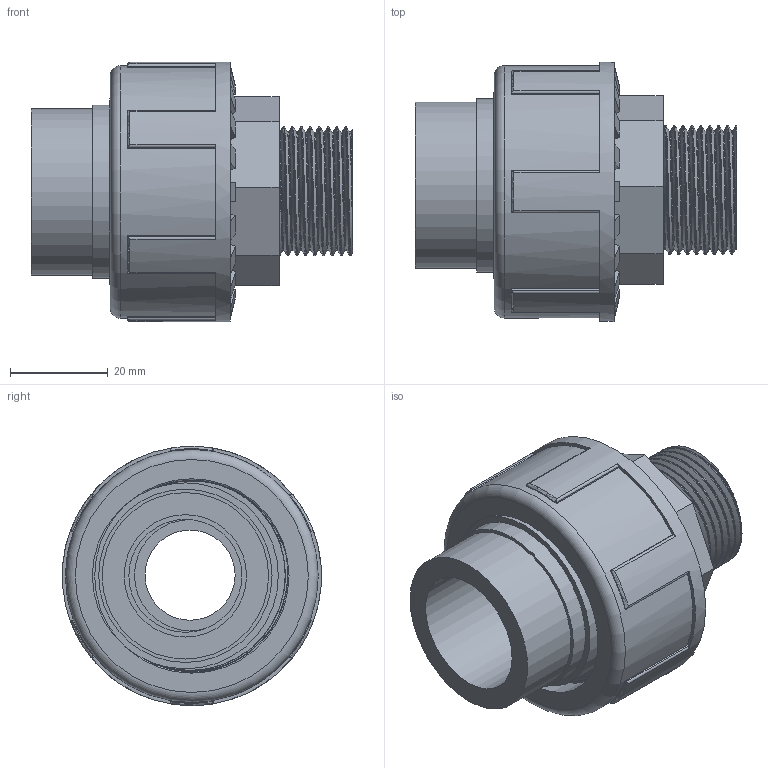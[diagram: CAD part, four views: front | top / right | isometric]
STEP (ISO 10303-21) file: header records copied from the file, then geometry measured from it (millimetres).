
FILE_DESCRIPTION(/* description */ (''),/* implementation_level */ '2;1');
FILE_NAME(/* name */ 'C:\ex desktop\US82\US82025C\US82025C.stp',/* time_stamp */ '2019-07-16T12:34:03+02:00',/* author */ ('e.sacchi'),/* organization */ (''),/* preprocessor_version */ 'ST-DEVELOPER v16.13',/* originating_system */ 'Autodesk Inventor 2018',/* authorisation */ '');
FILE_SCHEMA (('AUTOMOTIVE_DESIGN { 1 0 10303 214 3 1 1 }'));
Length unit declared in the file: millimetre
Products named in the file (5): US82025C; parte interna; guarnizione; parte interna2; ghiera
Assembly tree (4 placements, depth 2):
  US82025C
    parte interna
    guarnizione
    parte interna2
    ghiera
Bounding box: 65.6 x 52.93 x 52.99 mm (x, y, z)
Volume: 59170 mm3; surface area: 42280.8 mm2
Topology: 7 solids, 7 shells, 192 faces, 451 edges, 300 vertices
Faces by surface type: plane 133, cylinder 33, bspline 18, torus 8
Full cylindrical faces by diameter (mm): 18.41 x1, 22.71 x1, 23.094 x1, 24.072 x2, 25 x1, 25.81 x1, 33.7 x1, 34 x1, 35.409 x1, 38 x1, 38.896 x2, 39.709 x1, 41.91 x2, 51.6 x1, 53 x1
Entity records: 18715 total; most frequent: CARTESIAN_POINT 14262, ORIENTED_EDGE 860, DIRECTION 824, EDGE_CURVE 430, VERTEX_POINT 298, AXIS2_PLACEMENT_3D 280, LINE 264, VECTOR 264
